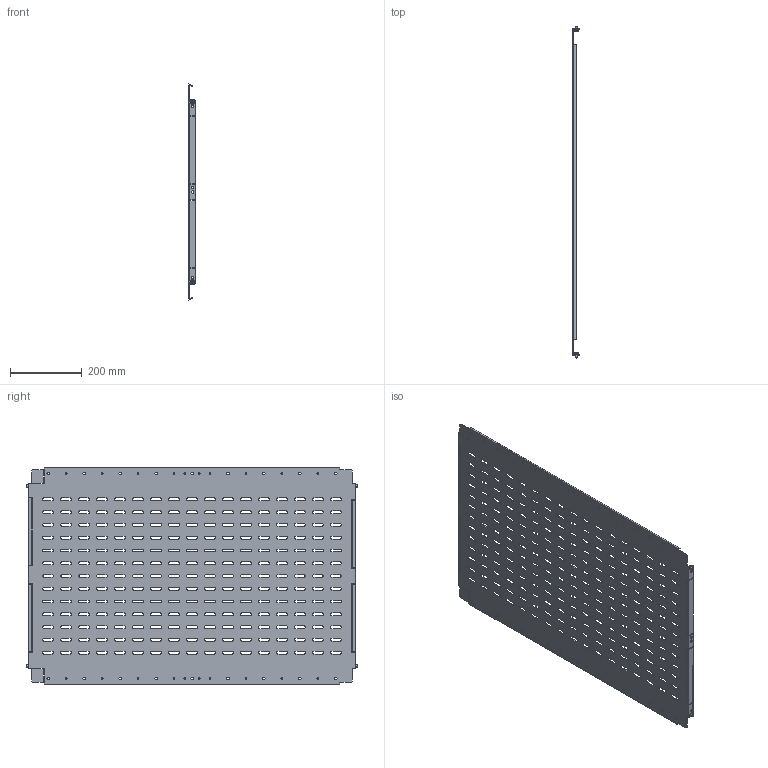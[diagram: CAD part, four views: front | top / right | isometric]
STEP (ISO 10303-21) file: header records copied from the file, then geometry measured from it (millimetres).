
FILE_DESCRIPTION (( 'STEP AP214' ), '1' );
FILE_NAME ('FO-00-SWV-060-100 Ïåðåãîðîäêà ñåêöèîíèðîâàíèÿ âåðòèêàëüíàÿ 600õ1000 ìì.STEP', '2025-09-18T14:34:39', ( '' ), ( '' ), 'SwSTEP 2.0', 'SolidWorks 2023', '' );
FILE_SCHEMA (( 'AUTOMOTIVE_DESIGN' ));
Length unit declared in the file: millimetre
Products named in the file (1): FO-00-SWV-060-100 Перегородка секционирования вертикальная 600х1000 мм
Bounding box: 17.5 x 921.9 x 600.39 mm (x, y, z)
Volume: 786430.6 mm3; surface area: 1078785 mm2
Topology: 1 solids, 1 shells, 1322 faces, 3928 edges, 2608 vertices
Faces by surface type: plane 672, cylinder 618, cone 16, torus 16
Entity records: 45799 total; most frequent: CARTESIAN_POINT 7859, DIRECTION 7858, ORIENTED_EDGE 7856, EDGE_CURVE 3928, VECTOR 2644, LINE 2644, VERTEX_POINT 2608, AXIS2_PLACEMENT_3D 2607
